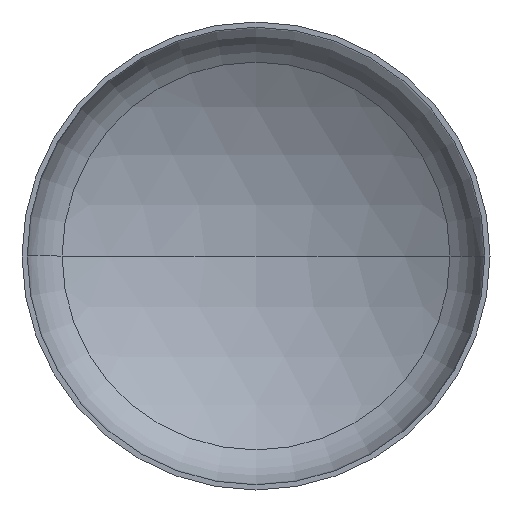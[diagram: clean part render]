
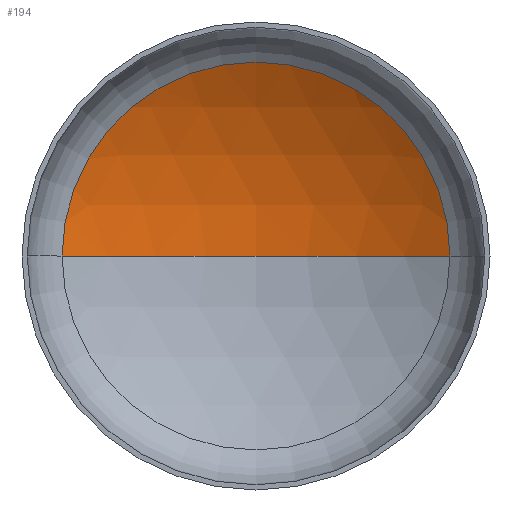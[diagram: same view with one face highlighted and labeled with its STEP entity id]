
A CAD part, front view. The second image highlights one B-rep face of the part: STEP entity #194.
In plain terms, the highlighted spherical face has radius 2720 mm.
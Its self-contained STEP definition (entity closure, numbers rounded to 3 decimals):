
#9 = ORIENTED_EDGE ( 'NONE', *, *, #112, .T. ) ;
#10 = DIRECTION ( 'NONE',  ( -1., 0., 0. ) ) ;
#20 = EDGE_LOOP ( 'NONE', ( #65, #56, #9 ) ) ;
#30 = AXIS2_PLACEMENT_3D ( 'NONE', #219, #203, #255 ) ;
#42 = AXIS2_PLACEMENT_3D ( 'NONE', #234, #383, #339 ) ;
#53 = AXIS2_PLACEMENT_3D ( 'NONE', #280, #108, #10 ) ;
#54 = AXIS2_PLACEMENT_3D ( 'NONE', #218, #199, #202 ) ;
#56 = ORIENTED_EDGE ( 'NONE', *, *, #114, .T. ) ;
#65 = ORIENTED_EDGE ( 'NONE', *, *, #127, .F. ) ;
#108 = DIRECTION ( 'NONE',  ( 0., 0., -1. ) ) ;
#112 = EDGE_CURVE ( 'NONE', #126, #144, #242, .T. ) ;
#114 = EDGE_CURVE ( 'NONE', #138, #126, #293, .T. ) ;
#126 = VERTEX_POINT ( 'NONE', #273 ) ;
#127 = EDGE_CURVE ( 'NONE', #138, #144, #350, .T. ) ;
#138 = VERTEX_POINT ( 'NONE', #193 ) ;
#144 = VERTEX_POINT ( 'NONE', #208 ) ;
#193 = CARTESIAN_POINT ( 'NONE',  ( 0., 962.433, 0. ) ) ;
#194 = ADVANCED_FACE ( 'NONE', ( #285 ), #398, .F. ) ;
#199 = DIRECTION ( 'NONE',  ( 0., -1., 0. ) ) ;
#202 = DIRECTION ( 'NONE',  ( 1., 0., 0. ) ) ;
#203 = DIRECTION ( 'NONE',  ( 0., 0., -1. ) ) ;
#208 = CARTESIAN_POINT ( 'NONE',  ( -1408.948, 569.076, 0. ) ) ;
#218 = CARTESIAN_POINT ( 'NONE',  ( 0., 569.076, 0. ) ) ;
#219 = CARTESIAN_POINT ( 'NONE',  ( 0., -1757.567, 0. ) ) ;
#234 = CARTESIAN_POINT ( 'NONE',  ( 0., -1757.567, 0. ) ) ;
#242 = CIRCLE ( 'NONE', #54, 1408.948 ) ;
#255 = DIRECTION ( 'NONE',  ( -1., 0., 0. ) ) ;
#273 = CARTESIAN_POINT ( 'NONE',  ( 1408.948, 569.076, 0. ) ) ;
#280 = CARTESIAN_POINT ( 'NONE',  ( 0., -1757.567, 0. ) ) ;
#285 = FACE_OUTER_BOUND ( 'NONE', #20, .T. ) ;
#293 = CIRCLE ( 'NONE', #53, 2720. ) ;
#339 = DIRECTION ( 'NONE',  ( 1., 0., 0. ) ) ;
#350 = CIRCLE ( 'NONE', #42, 2720. ) ;
#383 = DIRECTION ( 'NONE',  ( 0., 0., 1. ) ) ;
#398 = SPHERICAL_SURFACE ( 'NONE', #30, 2720. ) ;
